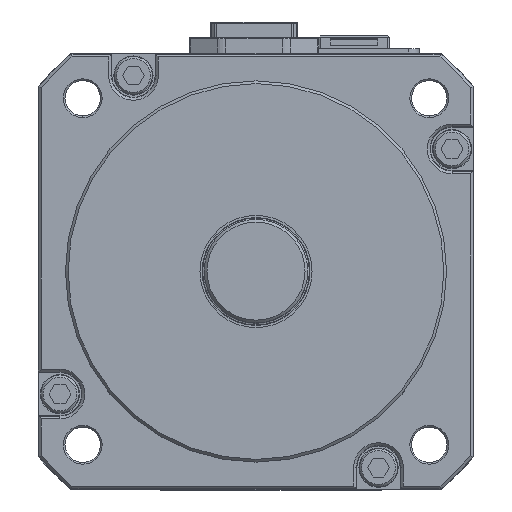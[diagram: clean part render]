
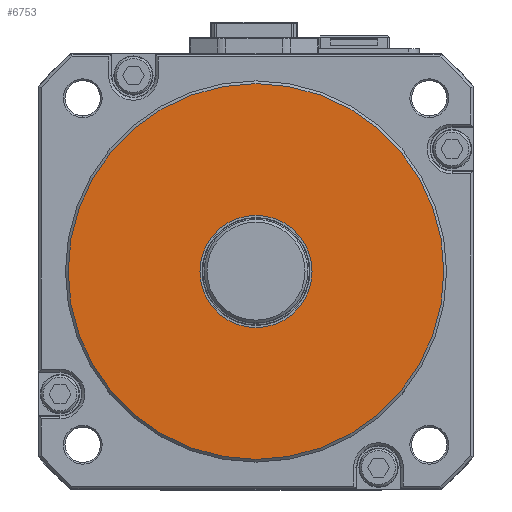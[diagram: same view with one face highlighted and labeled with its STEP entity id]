
A CAD part, top view. The second image highlights one B-rep face of the part: STEP entity #6753.
In plain terms, the highlighted planar face has unit normal (0, 0, 1).
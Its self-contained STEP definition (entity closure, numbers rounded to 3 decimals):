
#3438 = AXIS2_PLACEMENT_3D ( 'NONE', #38013, #23886, #32916 ) ;
#5255 = DIRECTION ( 'NONE',  ( 1., 0., 0. ) ) ;
#5794 = DIRECTION ( 'NONE',  ( 0., 0., 1. ) ) ;
#6252 = VERTEX_POINT ( 'NONE', #40940 ) ;
#6753 = ADVANCED_FACE ( 'NONE', ( #48752, #54153 ), #24600, .T. ) ;
#6885 = AXIS2_PLACEMENT_3D ( 'NONE', #18794, #49049, #5255 ) ;
#12663 = CIRCLE ( 'NONE', #3438, 10.3 ) ;
#14054 = EDGE_LOOP ( 'NONE', ( #29508 ) ) ;
#16980 = EDGE_CURVE ( 'NONE', #6252, #6252, #12663, .T. ) ;
#18794 = CARTESIAN_POINT ( 'NONE',  ( 0., 0., 13. ) ) ;
#19673 = VERTEX_POINT ( 'NONE', #39296 ) ;
#23886 = DIRECTION ( 'NONE',  ( 0., 0., 1. ) ) ;
#24600 = PLANE ( 'NONE',  #6885 ) ;
#25437 = DIRECTION ( 'NONE',  ( 1., 0., 0. ) ) ;
#29508 = ORIENTED_EDGE ( 'NONE', *, *, #16980, .F. ) ;
#29718 = EDGE_CURVE ( 'NONE', #19673, #19673, #43660, .T. ) ;
#32916 = DIRECTION ( 'NONE',  ( 1., 0., 0. ) ) ;
#38013 = CARTESIAN_POINT ( 'NONE',  ( 0., 0., 13. ) ) ;
#39296 = CARTESIAN_POINT ( 'NONE',  ( 34.5, 0., 13. ) ) ;
#40523 = CARTESIAN_POINT ( 'NONE',  ( 0., 0., 13. ) ) ;
#40940 = CARTESIAN_POINT ( 'NONE',  ( 10.3, 0., 13. ) ) ;
#43660 = CIRCLE ( 'NONE', #63190, 34.5 ) ;
#48752 = FACE_BOUND ( 'NONE', #14054, .T. ) ;
#49049 = DIRECTION ( 'NONE',  ( 0., 0., 1. ) ) ;
#50458 = EDGE_LOOP ( 'NONE', ( #61855 ) ) ;
#54153 = FACE_OUTER_BOUND ( 'NONE', #50458, .T. ) ;
#61855 = ORIENTED_EDGE ( 'NONE', *, *, #29718, .T. ) ;
#63190 = AXIS2_PLACEMENT_3D ( 'NONE', #40523, #5794, #25437 ) ;
